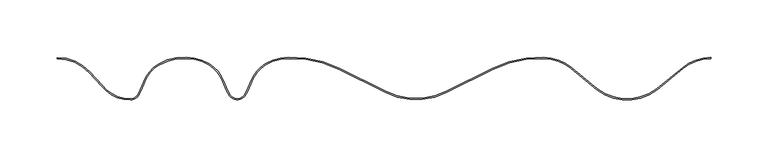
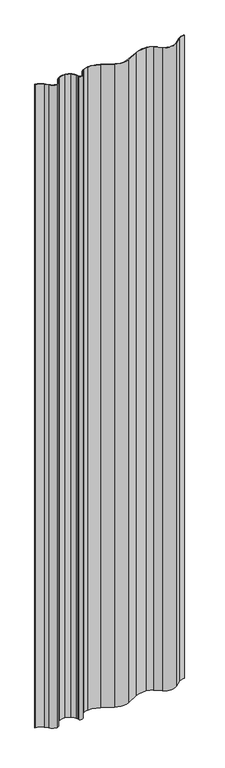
"""IFC4 building model written with IfcOpenShell, lengths in millimetres: plate geometry, Ritmica Couverture 568  : Ritmica Couverture 568 ."""

import ifcopenshell
import ifcopenshell.guid

model = None  # the IFC model being written
_history = None  # IfcOwnerHistory: only IFC2X3 demands one
_inside = {}  # id of a spatial element -> (the spatial element, [elements in it])
_under = {}  # id of a project, library or spatial element -> (it, [spatial elements below it])
_declared = {}  # id of a project -> (the project, [libraries it declares])
_typed = {}  # id of a type object -> (the type object, [elements of that type])
_made_of = {}  # id of a material, layer set ... -> (it, [elements and type objects made of it])


def new_model(schema):
    """Start an empty IFC model of exactly this schema.

    Asked for "IFC4X3", IfcOpenShell would pick the latest addendum, in which some entities
    have other attributes; the version numbers below select the first issue.
    IFC2X3 requires an IfcOwnerHistory on every rooted entity: one is made here for all.
    """
    global model, _history
    if schema == "IFC4X3":
        model = ifcopenshell.file(schema_version=(4, 3, 0, 0))
    else:
        model = ifcopenshell.file(schema=schema)
    _inside.clear()
    _under.clear()
    _declared.clear()
    _typed.clear()
    _made_of.clear()
    _history = None
    if model.schema == "IFC2X3":
        org = make("IfcOrganization", Name="unknown")
        user = make(
            "IfcPersonAndOrganization",
            ThePerson=make("IfcPerson", FamilyName="unknown"),
            TheOrganization=org,
        )
        app = make(
            "IfcApplication",
            ApplicationDeveloper=org,
            Version="unknown",
            ApplicationFullName="unknown",
            ApplicationIdentifier="unknown",
        )
        _history = make(
            "IfcOwnerHistory",
            OwningUser=user,
            OwningApplication=app,
            ChangeAction="ADDED",
            CreationDate=0,
        )
    return model


def make(cls, **values):
    """One entity of the class cls with the attributes given. An attribute that is None is left unset."""
    return model.create_entity(
        cls, **{name: value for name, value in values.items() if value is not None}
    )


def rooted(cls, **values):
    """An entity with a GlobalId (a new one), such as an element, a storey or a relation."""
    return make(cls, GlobalId=ifcopenshell.guid.new(), OwnerHistory=_history, **values)


def si_unit(unit_type, name, prefix=None):
    """IfcSIUnit, for example si_unit("LENGTHUNIT", "METRE", prefix="MILLI")."""
    return make("IfcSIUnit", UnitType=unit_type, Prefix=prefix, Name=name)


def assignment(units):
    """IfcUnitAssignment: the units of a project."""
    return None if units is None else make("IfcUnitAssignment", Units=units)


def point(xyz):
    """IfcCartesianPoint."""
    return None if xyz is None else make("IfcCartesianPoint", Coordinates=xyz)


def direction(xyz):
    """IfcDirection."""
    return None if xyz is None else make("IfcDirection", DirectionRatios=xyz)


def frame(location, z_axis=None, x_axis=None):
    """IfcAxis2Placement3D, a coordinate frame: its origin and axes. An axis left out is left unset."""
    return make(
        "IfcAxis2Placement3D",
        Location=point(location),
        Axis=direction(z_axis),
        RefDirection=direction(x_axis),
    )


def frame_2d(location, x_axis=None):
    """IfcAxis2Placement2D, a coordinate frame in the plane: its origin and x axis."""
    return make(
        "IfcAxis2Placement2D", Location=point(location), RefDirection=direction(x_axis)
    )


def origin():
    """The frame at (0, 0, 0) with its axes left unset."""
    return frame((0.0, 0.0, 0.0))


def origin_with_axes():
    """The frame at (0, 0, 0) with the z axis (0, 0, 1) and the x axis (1, 0, 0) written out."""
    return frame((0.0, 0.0, 0.0), z_axis=(0.0, 0.0, 1.0), x_axis=(1.0, 0.0, 0.0))


def place(relative_to, where):
    """IfcLocalPlacement: puts the frame where relative to a parent placement (None: the world)."""
    return make(
        "IfcLocalPlacement", PlacementRelTo=relative_to, RelativePlacement=where
    )


def context(
    kind, dimensions, precision=None, world=None, true_north=None, identifier=None
):
    """IfcGeometricRepresentationContext, for example the 3D "Model" context."""
    return make(
        "IfcGeometricRepresentationContext",
        ContextIdentifier=identifier,
        ContextType=kind,
        CoordinateSpaceDimension=dimensions,
        Precision=precision,
        WorldCoordinateSystem=world,
        TrueNorth=true_north,
    )


def project(units=None, contexts=None):
    """IfcProject with its units and contexts."""
    return rooted(
        "IfcProject",
        Name="project",
        RepresentationContexts=contexts,
        UnitsInContext=assignment(units),
    )


def spatial(cls, under=None, at=None, **own):
    """A site, building, storey or space (cls), placed at a placement, below another one or the project."""
    s = rooted(cls, ObjectPlacement=at, **own)
    if under is not None:
        _under.setdefault(under.id(), (under, []))[1].append(s)
    return s


def polyline(points):
    """IfcPolyline through the points."""
    return make("IfcPolyline", Points=[point(p) for p in points])


def circle_curve(where, radius):
    """IfcCircle in the frame where."""
    return make("IfcCircle", Position=where, Radius=radius)


def trimmed(basis, trim1, trim2, sense, master):
    """IfcTrimmedCurve: the piece of a basis curve between two trims."""
    return make(
        "IfcTrimmedCurve",
        BasisCurve=basis,
        Trim1=trim1,
        Trim2=trim2,
        SenseAgreement=sense,
        MasterRepresentation=master,
    )


def segment(curve, same_sense, transition):
    """IfcCompositeCurveSegment."""
    return make(
        "IfcCompositeCurveSegment",
        Transition=transition,
        SameSense=same_sense,
        ParentCurve=curve,
    )


def composite_curve(segments, self_intersect=None):
    """IfcCompositeCurve: segments joined end to end."""
    return make("IfcCompositeCurve", Segments=segments, SelfIntersect=self_intersect)


def outline(outer, holes=None, kind="AREA"):
    """IfcArbitraryClosedProfileDef: a profile drawn as a closed curve; with holes, ...WithVoids."""
    if holes is None:
        return make("IfcArbitraryClosedProfileDef", ProfileType=kind, OuterCurve=outer)
    return make(
        "IfcArbitraryProfileDefWithVoids",
        ProfileType=kind,
        OuterCurve=outer,
        InnerCurves=holes,
    )


def extrude(swept, where, along, depth):
    """IfcExtrudedAreaSolid: the profile swept, set in the frame where, extruded along a direction by depth."""
    return make(
        "IfcExtrudedAreaSolid",
        SweptArea=swept,
        Position=where,
        ExtrudedDirection=direction(along),
        Depth=depth,
    )


def shape(context_of_items, identifier, shape_type, items):
    """IfcShapeRepresentation: the items that make up one representation, for example the "Body"."""
    return make(
        "IfcShapeRepresentation",
        ContextOfItems=context_of_items,
        RepresentationIdentifier=identifier,
        RepresentationType=shape_type,
        Items=items,
    )


def source(mapping_origin, context_of_items, identifier, shape_type, items):
    """IfcRepresentationMap: a shape defined once, which mapped items show again and again."""
    return make(
        "IfcRepresentationMap",
        MappingOrigin=mapping_origin,
        MappedRepresentation=shape(context_of_items, identifier, shape_type, items),
    )


def transform(
    local_origin,
    x_axis=None,
    y_axis=None,
    z_axis=None,
    scale=None,
    scale2=None,
    scale3=None,
    uniform=True,
):
    """IfcCartesianTransformationOperator3D, or its non-uniform kind. x_axis, y_axis, z_axis: its Axis1, 2, 3."""
    if uniform:
        return make(
            "IfcCartesianTransformationOperator3D",
            Axis1=direction(x_axis),
            Axis2=direction(y_axis),
            LocalOrigin=point(local_origin),
            Scale=scale,
            Axis3=direction(z_axis),
        )
    return make(
        "IfcCartesianTransformationOperator3DnonUniform",
        Axis1=direction(x_axis),
        Axis2=direction(y_axis),
        LocalOrigin=point(local_origin),
        Scale=scale,
        Axis3=direction(z_axis),
        Scale2=scale2,
        Scale3=scale3,
    )


def mapped(mapping_source, mapping_target):
    """IfcMappedItem: shows the shape of a source again, moved by a transform."""
    return make(
        "IfcMappedItem", MappingSource=mapping_source, MappingTarget=mapping_target
    )


def made_of(thing, what):
    """Note that an element or type object is made of a material, layer set ...; save() writes the relation."""
    if what is not None:
        _made_of.setdefault(what.id(), (what, []))[1].append(thing)
    return thing


def element(
    cls,
    number,
    at=None,
    inside=None,
    cuts=None,
    type_object=None,
    material=None,
    context=None,
    identifier="Body",
    shape_type=None,
    held_by="IfcProductDefinitionShape",
    body=None,
    shapes=None,
    **own,
):
    """One element of the class cls, such as IfcWall. Its Tag is "e" and its number.

    at: its placement. inside: the storey or other place that contains it. cuts: it is an
    opening in that element (IfcRelVoidsElement). A single representation is given by context,
    identifier, shape_type and body (its items); several are given by shapes. held_by: the class
    of the entity that holds the representations. save() writes the other relations.
    """
    e = rooted(cls, Tag="e%d" % number, ObjectPlacement=at, **own)
    if body is not None:
        shapes = [shape(context, identifier, shape_type, body)]
    if shapes is not None:
        e.Representation = make(held_by, Representations=shapes)
    if inside is not None:
        _inside.setdefault(inside.id(), (inside, []))[1].append(e)
    if cuts is not None:
        rooted(
            "IfcRelVoidsElement", RelatingBuildingElement=cuts, RelatedOpeningElement=e
        )
    if type_object is not None:
        _typed.setdefault(type_object.id(), (type_object, []))[1].append(e)
    return made_of(e, material)


def aggregate(whole, parts):
    """IfcRelAggregates: a whole, such as a stair, and the parts it consists of."""
    return rooted("IfcRelAggregates", RelatingObject=whole, RelatedObjects=parts)


def save(model, path):
    """Write the relations noted so far, then the file.

    IfcRelAggregates (storeys below a building ...), IfcRelContainedInSpatialStructure (elements
    in a storey), IfcRelDefinesByType, IfcRelAssociatesMaterial and IfcRelDeclares: one each for
    every whole, place, type object, material and project.
    """
    for whole, parts in _under.values():
        aggregate(whole, parts)
    for where, things in _inside.values():
        rooted(
            "IfcRelContainedInSpatialStructure",
            RelatedElements=things,
            RelatingStructure=where,
        )
    for kind, things in _typed.values():
        rooted("IfcRelDefinesByType", RelatedObjects=things, RelatingType=kind)
    for what, things in _made_of.values():
        rooted("IfcRelAssociatesMaterial", RelatedObjects=things, RelatingMaterial=what)
    for by, libraries in _declared.values():
        rooted("IfcRelDeclares", RelatingContext=by, RelatedDefinitions=libraries)
    model.write(path)


def plate_91f411e5(model_context):
    return source(origin(), model_context, "Body", "SweptSolid", [
        extrude(outline(composite_curve([segment(trimmed(circle_curve(frame_2d((-283.8785549, -1.6301512)), 37.4503244), [point((-256.4087884, 23.8244894))], [point((-283.8654502, 35.820171))], True, "CARTESIAN"), True, "CONTINUOUS"), segment(polyline([(-283.8654502, 35.820171), (-283.8654502, 36.820171)]), True, "CONTINUOUS"), segment(trimmed(circle_curve(frame_2d((-283.8785549, -1.6301512)), 38.4503244), [point((-283.8654502, 36.820171))], [point((-255.6752896, 24.5041802))], False, "CARTESIAN"), True, "CONTINUOUS"), segment(polyline([(-255.6752896, 24.5041802), (-244.5420668, 12.4895917)]), True, "CONTINUOUS"), segment(trimmed(circle_curve(frame_2d((-220.3373203, 31.7060655)), 30.9053816), [point((-244.5420668, 12.4895917))], [point((-220.32782, 0.8006853))], True, "CARTESIAN"), True, "CONTINUOUS"), segment(trimmed(circle_curve(frame_2d((-220.3302366, 8.6620294)), 7.8613444), [point((-220.32782, 0.8006853))], [point((-213.2413834, 5.2636625))], True, "CARTESIAN"), True, "CONTINUOUS"), segment(polyline([(-213.2413834, 5.2636625), (-211.5948412, 8.6982816), (-208.7251997, 15.8617171)]), True, "CONTINUOUS"), segment(trimmed(circle_curve(frame_2d((-179.3703863, 4.1182392)), 31.6166782), [point((-208.7251997, 15.8617171))], [point((-195.8603, 31.0941005))], False, "CARTESIAN"), True, "CONTINUOUS"), segment(trimmed(circle_curve(frame_2d((-174.2544027, -5.2633706)), 42.2927948), [point((-195.8603, 31.0941005))], [point((-171.550378, 36.9428938))], False, "CARTESIAN"), True, "CONTINUOUS"), segment(trimmed(circle_curve(frame_2d((-171.5848607, -1.5074152)), 38.4503244), [point((-171.550378, 36.9428938))], [point((-151.5205344, 31.2927412))], False, "CARTESIAN"), True, "CONTINUOUS"), segment(trimmed(circle_curve(frame_2d((-168.0188958, 4.3220457)), 31.6166783), [point((-151.5205344, 31.2927412))], [point((-138.6627679, 16.0622374))], False, "CARTESIAN"), True, "CONTINUOUS"), segment(polyline([(-138.6627679, 16.0622374), (-135.7939389, 8.8985546), (-134.1477735, 5.4637551)]), True, "CONTINUOUS"), segment(trimmed(circle_curve(frame_2d((-127.0585476, 8.8613445)), 7.8613445), [point((-134.1477735, 5.4637551))], [point((-119.9696943, 5.4629778))], True, "CARTESIAN"), True, "CONTINUOUS"), segment(polyline([(-119.9696943, 5.4629778), (-118.3231523, 8.8975968), (-115.4535378, 16.060965)]), True, "CONTINUOUS"), segment(trimmed(circle_curve(frame_2d((-86.0986974, 4.3175545)), 31.6166783), [point((-115.4535378, 16.060965))], [point((-102.5941014, 31.2900589))], False, "CARTESIAN"), True, "CONTINUOUS"), segment(trimmed(circle_curve(frame_2d((-82.5333717, -1.5122973)), 38.4503244), [point((-102.5941014, 31.2900589))], [point((-82.5490295, 36.9380239))], False, "CARTESIAN"), True, "CONTINUOUS"), segment(trimmed(circle_curve(frame_2d((-79.2355463, -57.297116)), 94.293376), [point((-82.5490295, 36.9380239))], [point((-38.3420514, 27.6673639))], False, "CARTESIAN"), True, "CONTINUOUS"), segment(polyline([(-38.3420514, 27.6673639), (2.2030935, 7.2793217)]), True, "CONTINUOUS"), segment(trimmed(circle_curve(frame_2d((28.7087212, 59.9903423)), 59.0), [point((2.2030935, 7.2793217))], [point((55.2085691, 7.2764157))], True, "CARTESIAN"), True, "CONTINUOUS"), segment(polyline([(55.2085691, 7.2764157), (95.7559492, 27.6600121)]), True, "CONTINUOUS"), segment(trimmed(circle_curve(frame_2d((136.6401278, -57.308951)), 94.293376), [point((95.7559492, 27.6600121))], [point((139.9639446, 36.925825))], False, "CARTESIAN"), True, "CONTINUOUS"), segment(trimmed(circle_curve(frame_2d((139.9440873, -1.2055902)), 38.1314203), [point((139.9639446, 36.925825))], [point((164.3530597, 28.0895849))], False, "CARTESIAN"), True, "CONTINUOUS"), segment(polyline([(164.3530597, 28.0895849), (186.762706, 9.4176897)]), True, "CONTINUOUS"), segment(trimmed(circle_curve(frame_2d((212.5736037, 43.9851845)), 43.1406321), [point((186.762706, 9.4176897))], [point((238.3807111, 9.4148599))], True, "CARTESIAN"), True, "CONTINUOUS"), segment(polyline([(238.3807111, 9.4148599), (261.0947188, 28.0843912)]), True, "CONTINUOUS"), segment(trimmed(circle_curve(frame_2d((285.5004789, -1.2134601)), 38.1314203), [point((261.0947188, 28.0843912))], [point((285.5025694, 36.9179602))], False, "CARTESIAN"), True, "CONTINUOUS"), segment(polyline([(285.5025694, 36.9179602), (285.5028785, 35.9179602)]), True, "CONTINUOUS"), segment(trimmed(circle_curve(frame_2d((285.5004789, -1.2134601)), 37.1314203), [point((285.5028785, 35.9179602))], [point((261.7347621, 27.3160524))], True, "CARTESIAN"), True, "CONTINUOUS"), segment(polyline([(261.7347621, 27.3160524), (239.0003943, 8.6295606)]), True, "CONTINUOUS"), segment(trimmed(circle_curve(frame_2d((212.5736037, 43.9851845)), 44.1406321), [point((239.0003943, 8.6295606))], [point((186.1429367, 8.6324584))], False, "CARTESIAN"), True, "CONTINUOUS"), segment(polyline([(186.1429367, 8.6324584), (163.7129322, 27.3213162)]), True, "CONTINUOUS"), segment(trimmed(circle_curve(frame_2d((139.9440873, -1.2055902)), 37.1314203), [point((163.7129322, 27.3213162))], [point((139.946123, 35.9258301))], True, "CARTESIAN"), True, "CONTINUOUS"), segment(trimmed(circle_curve(frame_2d((136.6401278, -57.308951)), 93.293376), [point((139.946123, 35.9258301))], [point((96.1973292, 26.7626497))], True, "CARTESIAN"), True, "CONTINUOUS"), segment(polyline([(96.1973292, 26.7626497), (55.6577191, 6.3829593)]), True, "CONTINUOUS"), segment(trimmed(circle_curve(frame_2d((28.7087212, 59.9903423)), 60.0), [point((55.6577191, 6.3829593))], [point((1.7538456, 6.3859145))], False, "CARTESIAN"), True, "CONTINUOUS"), segment(polyline([(1.7538456, 6.3859145), (-38.7835297, 26.7700498)]), True, "CONTINUOUS"), segment(trimmed(circle_curve(frame_2d((-79.2355463, -57.297116)), 93.293376), [point((-38.7835297, 26.7700498))], [point((-82.5313186, 35.938027))], True, "CARTESIAN"), True, "CONTINUOUS"), segment(trimmed(circle_curve(frame_2d((-82.5333717, -1.5122973)), 37.4503244), [point((-82.5313186, 35.938027))], [point((-102.0723703, 30.4369489))], True, "CARTESIAN"), True, "CONTINUOUS"), segment(trimmed(circle_curve(frame_2d((-86.0986974, 4.3175545)), 30.6166783), [point((-102.0723703, 30.4369489))], [point((-114.5251638, 15.6893176))], True, "CARTESIAN"), True, "CONTINUOUS"), segment(polyline([(-114.5251638, 15.6893176), (-117.4071441, 8.4950807), (-119.0679588, 5.0306896)]), True, "CONTINUOUS"), segment(trimmed(circle_curve(frame_2d((-127.0585476, 8.8613445)), 8.8613445), [point((-119.0679588, 5.0306896))], [point((-135.0495564, 5.0315657))], False, "CARTESIAN"), True, "CONTINUOUS"), segment(polyline([(-135.0495564, 5.0315657), (-136.7099912, 8.496139), (-139.5911827, 15.6906918)]), True, "CONTINUOUS"), segment(trimmed(circle_curve(frame_2d((-168.0188958, 4.3220457)), 30.6166783), [point((-139.5911827, 15.6906918))], [point((-152.042359, 30.4396884))], True, "CARTESIAN"), True, "CONTINUOUS"), segment(trimmed(circle_curve(frame_2d((-171.5848607, -1.5074152)), 37.4503244), [point((-152.042359, 30.4396884))], [point((-171.5828079, 35.9429092))], True, "CARTESIAN"), True, "CONTINUOUS"), segment(trimmed(circle_curve(frame_2d((-174.2544027, -5.2633706)), 41.2927948), [point((-171.5828079, 35.9429092))], [point((-195.3440609, 30.2376326))], True, "CARTESIAN"), True, "CONTINUOUS"), segment(trimmed(circle_curve(frame_2d((-179.3703863, 4.1182392)), 30.6166783), [point((-195.3440609, 30.2376326))], [point((-207.7968398, 15.4900347))], True, "CARTESIAN"), True, "CONTINUOUS"), segment(polyline([(-207.7968398, 15.4900347), (-210.6788331, 8.2957655), (-212.339648, 4.8313742)]), True, "CONTINUOUS"), segment(trimmed(circle_curve(frame_2d((-220.3302366, 8.6620294)), 8.8613444), [point((-212.339648, 4.8313742))], [point((-220.3275126, -0.1993146))], False, "CARTESIAN"), True, "CONTINUOUS"), segment(trimmed(circle_curve(frame_2d((-220.3373203, 31.7060655)), 31.9053816), [point((-220.3275126, -0.1993146))], [point((-245.301309, 11.8376824))], False, "CARTESIAN"), True, "CONTINUOUS"), segment(polyline([(-245.301309, 11.8376824), (-256.4087884, 23.8244894)]), True, "CONTINUOUS")], self_intersect=False)), origin_with_axes(), (0.0, 0.0, 1.0), 2588.190451),
    ])


if __name__ == "__main__":
    model = new_model("IFC4")
    model_context = context("Model", 3, world=origin())
    ifc_project = project(units=[si_unit("LENGTHUNIT", "METRE", prefix="MILLI")], contexts=[model_context])
    site = spatial("IfcSite", under=ifc_project)
    building = spatial("IfcBuilding", under=site)
    placement = place(None, origin())
    plate_shape = plate_91f411e5(model_context)
    element("IfcPlate", 1, ObjectType="Ritmica Couverture 568  : Ritmica Couverture 568 ", at=placement, inside=building, context=model_context, shape_type="MappedRepresentation", body=[
        mapped(plate_shape, transform((0.0, 0.0, 0.0), x_axis=(1.0, 0.0, 0.0), y_axis=(0.0, 1.0, 0.0), z_axis=(0.0, 0.0, 1.0))),
    ])
    save(model, "model.ifc")
